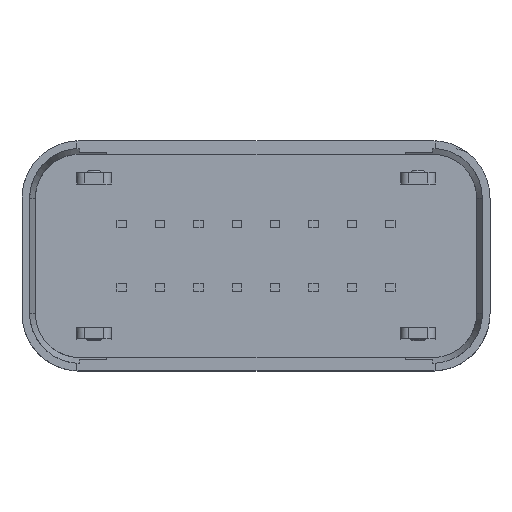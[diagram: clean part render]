
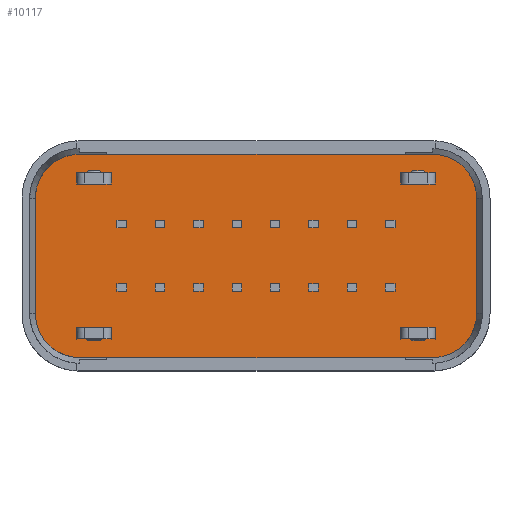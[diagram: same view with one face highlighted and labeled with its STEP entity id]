
A CAD part, top view. The second image highlights one B-rep face of the part: STEP entity #10117.
In plain terms, the highlighted free-form (B-spline) face has degree [1, 1] with [4, 3] control points.
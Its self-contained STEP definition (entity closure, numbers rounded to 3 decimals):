
#453 = CARTESIAN_POINT ( 'NONE',  ( 47.174, 3.78, -3.95 ) ) ;
#1341 = CARTESIAN_POINT ( 'NONE',  ( 47.65, -1.52, -3.95 ) ) ;
#1700 = EDGE_CURVE ( 'NONE', #28976, #22190, #10724, .T. ) ;
#2672 =( BOUNDED_CURVE ( )  B_SPLINE_CURVE ( 3, ( #29188, #7371, #12713, #31529 ),
 .UNSPECIFIED., .F., .F. ) 
 B_SPLINE_CURVE_WITH_KNOTS ( ( 4, 4 ),
 ( 0., 1. ),
 .UNSPECIFIED. ) 
 CURVE ( )  GEOMETRIC_REPRESENTATION_ITEM ( )  RATIONAL_B_SPLINE_CURVE ( ( 1., 0.805, 0.805, 1. ) ) 
 REPRESENTATION_ITEM ( '' )  );
#2692 = CARTESIAN_POINT ( 'NONE',  ( 36.15, 2.63, -3.95 ) ) ;
#2805 = ORIENTED_EDGE ( 'NONE', *, *, #27720, .F. ) ;
#4027 = CARTESIAN_POINT ( 'NONE',  ( 47.766, -1.573, -3.95 ) ) ;
#4153 = CARTESIAN_POINT ( 'NONE',  ( 36.626, -1.52, -3.95 ) ) ;
#4200 = CARTESIAN_POINT ( 'NONE',  ( 36.15, 3.78, -3.95 ) ) ;
#4508 = ORIENTED_EDGE ( 'NONE', *, *, #8406, .F. ) ;
#4680 = B_SPLINE_CURVE_WITH_KNOTS ( 'NONE', 1,
 ( #29505, #2692 ),
 .UNSPECIFIED., .F., .F.,
 ( 2, 2 ),
 ( 0., 1. ),
 .UNSPECIFIED. ) ;
#5440 = CARTESIAN_POINT ( 'NONE',  ( 46.5, 3.78, -3.95 ) ) ;
#6531 = FACE_OUTER_BOUND ( 'NONE', #26886, .T. ) ;
#6671 = CARTESIAN_POINT ( 'NONE',  ( 36.719, 3.634, -3.95 ) ) ;
#6858 = CARTESIAN_POINT ( 'NONE',  ( 46.5, 3.78, -3.95 ) ) ;
#6870 = CARTESIAN_POINT ( 'NONE',  ( 36.035, 3.78, -3.95 ) ) ;
#7001 = CARTESIAN_POINT ( 'NONE',  ( 36.15, -0.37, -3.95 ) ) ;
#7371 = CARTESIAN_POINT ( 'NONE',  ( 47.65, -1.044, -3.95 ) ) ;
#7880 = EDGE_CURVE ( 'NONE', #33598, #30787, #31180, .T. ) ;
#8376 = VERTEX_POINT ( 'NONE', #34385 ) ;
#8406 = EDGE_CURVE ( 'NONE', #9754, #8376, #29265, .T. ) ;
#9386 = CARTESIAN_POINT ( 'NONE',  ( 36.15, -1.573, -3.95 ) ) ;
#9730 = ORIENTED_EDGE ( 'NONE', *, *, #1700, .T. ) ;
#9754 = VERTEX_POINT ( 'NONE', #33597 ) ;
#9874 = CARTESIAN_POINT ( 'NONE',  ( 36.15, 2.63, -3.95 ) ) ;
#10043 = CARTESIAN_POINT ( 'NONE',  ( 37.148, 3.78, -3.95 ) ) ;
#10117 = ADVANCED_FACE ( 'NONE', ( #6531 ), #33211, .F. ) ;
#10724 = B_SPLINE_CURVE_WITH_KNOTS ( 'NONE', 3,
 ( #34026, #10043, #25968, #6671, #20388, #31340, #20566, #30989, #15044, #9874 ),
 .UNSPECIFIED., .F., .F.,
 ( 4, 2, 2, 2, 4 ),
 ( 0., 0.25, 0.5, 0.75, 1. ),
 .UNSPECIFIED. ) ;
#11926 = CARTESIAN_POINT ( 'NONE',  ( 37.3, 3.78, -3.95 ) ) ;
#12713 = CARTESIAN_POINT ( 'NONE',  ( 47.174, -1.52, -3.95 ) ) ;
#13884 = CARTESIAN_POINT ( 'NONE',  ( 36.15, -0.37, -3.95 ) ) ;
#13971 = ORIENTED_EDGE ( 'NONE', *, *, #17086, .F. ) ;
#14554 = ORIENTED_EDGE ( 'NONE', *, *, #7880, .F. ) ;
#14718 = CARTESIAN_POINT ( 'NONE',  ( 47.65, 3.78, -3.95 ) ) ;
#15044 = CARTESIAN_POINT ( 'NONE',  ( 36.15, 2.783, -3.95 ) ) ;
#16332 = EDGE_CURVE ( 'NONE', #30787, #9754, #2672, .T. ) ;
#16504 = CARTESIAN_POINT ( 'NONE',  ( 47.65, 3.304, -3.95 ) ) ;
#17086 = EDGE_CURVE ( 'NONE', #19978, #33598, #26669, .T. ) ;
#17403 = CARTESIAN_POINT ( 'NONE',  ( 36.035, -1.52, -3.95 ) ) ;
#18341 = CARTESIAN_POINT ( 'NONE',  ( 47.65, 2.63, -3.95 ) ) ;
#18811 = CARTESIAN_POINT ( 'NONE',  ( 47.65, 2.63, -3.95 ) ) ;
#19791 = CARTESIAN_POINT ( 'NONE',  ( 37.3, -1.52, -3.95 ) ) ;
#19892 = CARTESIAN_POINT ( 'NONE',  ( 47.65, -1.573, -3.95 ) ) ;
#19978 = VERTEX_POINT ( 'NONE', #6858 ) ;
#20103 = ORIENTED_EDGE ( 'NONE', *, *, #34339, .F. ) ;
#20251 = CARTESIAN_POINT ( 'NONE',  ( 36.15, -1.52, -3.95 ) ) ;
#20388 = CARTESIAN_POINT ( 'NONE',  ( 36.595, 3.551, -3.95 ) ) ;
#20566 = CARTESIAN_POINT ( 'NONE',  ( 36.296, 3.211, -3.95 ) ) ;
#22190 = VERTEX_POINT ( 'NONE', #27403 ) ;
#22773 = CARTESIAN_POINT ( 'NONE',  ( 47.766, 3.78, -3.95 ) ) ;
#22972 = CARTESIAN_POINT ( 'NONE',  ( 47.65, -0.37, -3.95 ) ) ;
#24330 = CARTESIAN_POINT ( 'NONE',  ( 46.5, -1.52, -3.95 ) ) ;
#24332 = ORIENTED_EDGE ( 'NONE', *, *, #34213, .F. ) ;
#24751 = VERTEX_POINT ( 'NONE', #13884 ) ;
#25318 = CARTESIAN_POINT ( 'NONE',  ( 47.65, 2.63, -3.95 ) ) ;
#25327 = B_SPLINE_CURVE_WITH_KNOTS ( 'NONE', 1,
 ( #28172, #33003 ),
 .UNSPECIFIED., .F., .F.,
 ( 2, 2 ),
 ( 0., 1. ),
 .UNSPECIFIED. ) ;
#25968 = CARTESIAN_POINT ( 'NONE',  ( 37.001, 3.751, -3.95 ) ) ;
#26100 = CARTESIAN_POINT ( 'NONE',  ( 47.65, -0.37, -3.95 ) ) ;
#26669 =( BOUNDED_CURVE ( )  B_SPLINE_CURVE ( 3, ( #5440, #453, #16504, #18811 ),
 .UNSPECIFIED., .F., .F. ) 
 B_SPLINE_CURVE_WITH_KNOTS ( ( 4, 4 ),
 ( 0., 1. ),
 .UNSPECIFIED. ) 
 CURVE ( )  GEOMETRIC_REPRESENTATION_ITEM ( )  RATIONAL_B_SPLINE_CURVE ( ( 1., 0.805, 0.805, 1. ) ) 
 REPRESENTATION_ITEM ( '' )  );
#26886 = EDGE_LOOP ( 'NONE', ( #33742, #14554, #13971, #2805, #9730, #20103, #24332, #4508 ) ) ;
#27403 = CARTESIAN_POINT ( 'NONE',  ( 36.15, 2.63, -3.95 ) ) ;
#27720 = EDGE_CURVE ( 'NONE', #28976, #19978, #25327, .T. ) ;
#28172 = CARTESIAN_POINT ( 'NONE',  ( 37.3, 3.78, -3.95 ) ) ;
#28636 = CARTESIAN_POINT ( 'NONE',  ( 37.3, -1.52, -3.95 ) ) ;
#28976 = VERTEX_POINT ( 'NONE', #11926 ) ;
#29188 = CARTESIAN_POINT ( 'NONE',  ( 47.65, -0.37, -3.95 ) ) ;
#29265 = B_SPLINE_CURVE_WITH_KNOTS ( 'NONE', 1,
 ( #24330, #19791 ),
 .UNSPECIFIED., .F., .F.,
 ( 2, 2 ),
 ( 0., 1. ),
 .UNSPECIFIED. ) ;
#29505 = CARTESIAN_POINT ( 'NONE',  ( 36.15, -0.37, -3.95 ) ) ;
#30713 =( BOUNDED_CURVE ( )  B_SPLINE_CURVE ( 3, ( #28636, #4153, #34186, #7001 ),
 .UNSPECIFIED., .F., .F. ) 
 B_SPLINE_CURVE_WITH_KNOTS ( ( 4, 4 ),
 ( 0., 1. ),
 .UNSPECIFIED. ) 
 CURVE ( )  GEOMETRIC_REPRESENTATION_ITEM ( )  RATIONAL_B_SPLINE_CURVE ( ( 1., 0.805, 0.805, 1. ) ) 
 REPRESENTATION_ITEM ( '' )  );
#30787 = VERTEX_POINT ( 'NONE', #26100 ) ;
#30989 = CARTESIAN_POINT ( 'NONE',  ( 36.179, 2.929, -3.95 ) ) ;
#31180 = B_SPLINE_CURVE_WITH_KNOTS ( 'NONE', 1,
 ( #25318, #22972 ),
 .UNSPECIFIED., .F., .F.,
 ( 2, 2 ),
 ( 0., 1. ),
 .UNSPECIFIED. ) ;
#31340 = CARTESIAN_POINT ( 'NONE',  ( 36.379, 3.335, -3.95 ) ) ;
#31529 = CARTESIAN_POINT ( 'NONE',  ( 46.5, -1.52, -3.95 ) ) ;
#31548 = CARTESIAN_POINT ( 'NONE',  ( 47.766, -1.52, -3.95 ) ) ;
#33003 = CARTESIAN_POINT ( 'NONE',  ( 46.5, 3.78, -3.95 ) ) ;
#33211 = B_SPLINE_SURFACE_WITH_KNOTS ( 'NONE', 1, 1, ( 
 ( #4027, #31548, #22773 ),
 ( #19892, #1341, #14718 ),
 ( #9386, #20251, #4200 ),
 ( #34233, #17403, #6870 ) ),
 .UNSPECIFIED., .F., .F., .F.,
 ( 2, 1, 1, 2 ),
 ( 2, 1, 2 ),
 ( -13.366, -13.25, -1.75, -1.635 ),
 ( -1.573, -1.52, 3.78 ),
 .UNSPECIFIED. ) ;
#33597 = CARTESIAN_POINT ( 'NONE',  ( 46.5, -1.52, -3.95 ) ) ;
#33598 = VERTEX_POINT ( 'NONE', #18341 ) ;
#33742 = ORIENTED_EDGE ( 'NONE', *, *, #16332, .F. ) ;
#34026 = CARTESIAN_POINT ( 'NONE',  ( 37.3, 3.78, -3.95 ) ) ;
#34186 = CARTESIAN_POINT ( 'NONE',  ( 36.15, -1.044, -3.95 ) ) ;
#34213 = EDGE_CURVE ( 'NONE', #8376, #24751, #30713, .T. ) ;
#34233 = CARTESIAN_POINT ( 'NONE',  ( 36.035, -1.573, -3.95 ) ) ;
#34339 = EDGE_CURVE ( 'NONE', #24751, #22190, #4680, .T. ) ;
#34385 = CARTESIAN_POINT ( 'NONE',  ( 37.3, -1.52, -3.95 ) ) ;
